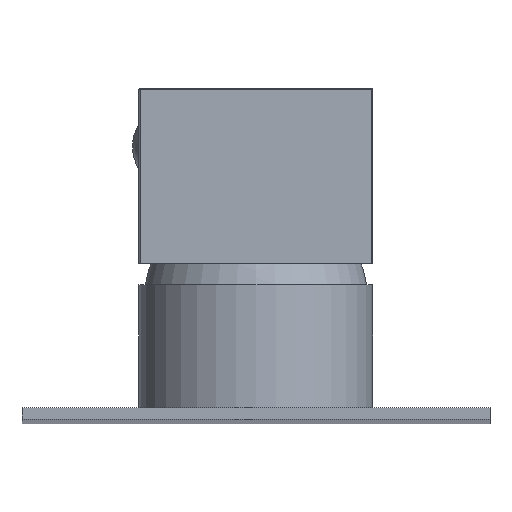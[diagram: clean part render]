
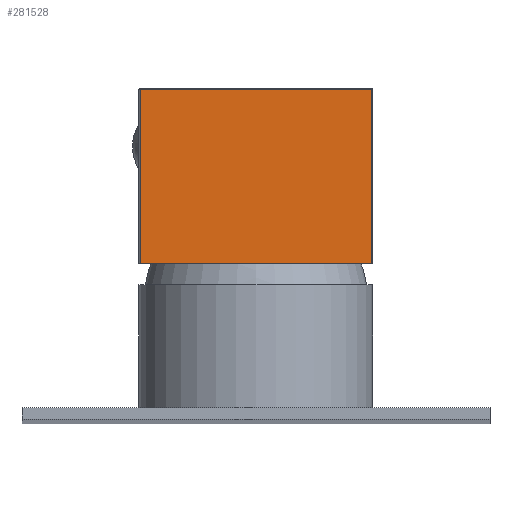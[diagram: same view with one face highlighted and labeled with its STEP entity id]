
A CAD part, top view. The second image highlights one B-rep face of the part: STEP entity #281528.
In plain terms, the highlighted planar face has unit normal (0, 0, 1).
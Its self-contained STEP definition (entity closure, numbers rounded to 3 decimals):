
#97621=DIRECTION('',(1.,0.,0.));
#97622=VECTOR('',#97621,39.5);
#97623=CARTESIAN_POINT('',(-19.75,109.6,19.93));
#97624=LINE('',#97623,#97622);
#97688=DIRECTION('',(1.,0.,0.));
#97689=VECTOR('',#97688,39.5);
#97690=CARTESIAN_POINT('',(-19.75,139.35,19.93));
#97691=LINE('',#97690,#97689);
#97692=DIRECTION('',(0.,-1.,0.));
#97693=VECTOR('',#97692,29.75);
#97694=CARTESIAN_POINT('',(19.75,139.35,19.93));
#97695=LINE('',#97694,#97693);
#97696=DIRECTION('',(0.,-1.,0.));
#97697=VECTOR('',#97696,29.75);
#97698=CARTESIAN_POINT('',(-19.75,139.35,19.93));
#97699=LINE('',#97698,#97697);
#114035=CARTESIAN_POINT('',(-19.75,139.35,19.93));
#114036=CARTESIAN_POINT('',(19.75,139.35,19.93));
#114037=VERTEX_POINT('',#114035);
#114038=VERTEX_POINT('',#114036);
#114043=CARTESIAN_POINT('',(-19.75,109.6,19.93));
#114045=VERTEX_POINT('',#114043);
#114072=CARTESIAN_POINT('',(19.75,109.6,19.93));
#114074=VERTEX_POINT('',#114072);
#281516=CARTESIAN_POINT('',(-20.,139.6,19.93));
#281517=DIRECTION('',(0.,0.,1.));
#281518=DIRECTION('',(1.,0.,0.));
#281519=AXIS2_PLACEMENT_3D('',#281516,#281517,#281518);
#281520=PLANE('',#281519);
#281522=ORIENTED_EDGE('',*,*,#281521,.T.);
#281523=ORIENTED_EDGE('',*,*,#281508,.T.);
#281524=ORIENTED_EDGE('',*,*,#281389,.F.);
#281525=ORIENTED_EDGE('',*,*,#281421,.F.);
#281526=EDGE_LOOP('',(#281522,#281523,#281524,#281525));
#281527=FACE_OUTER_BOUND('',#281526,.F.);
#281528=ADVANCED_FACE('',(#281527),#281520,.T.);
#281389=EDGE_CURVE('',#114045,#114074,#97624,.T.);
#281421=EDGE_CURVE('',#114037,#114045,#97699,.T.);
#281508=EDGE_CURVE('',#114038,#114074,#97695,.T.);
#281521=EDGE_CURVE('',#114037,#114038,#97691,.T.);
